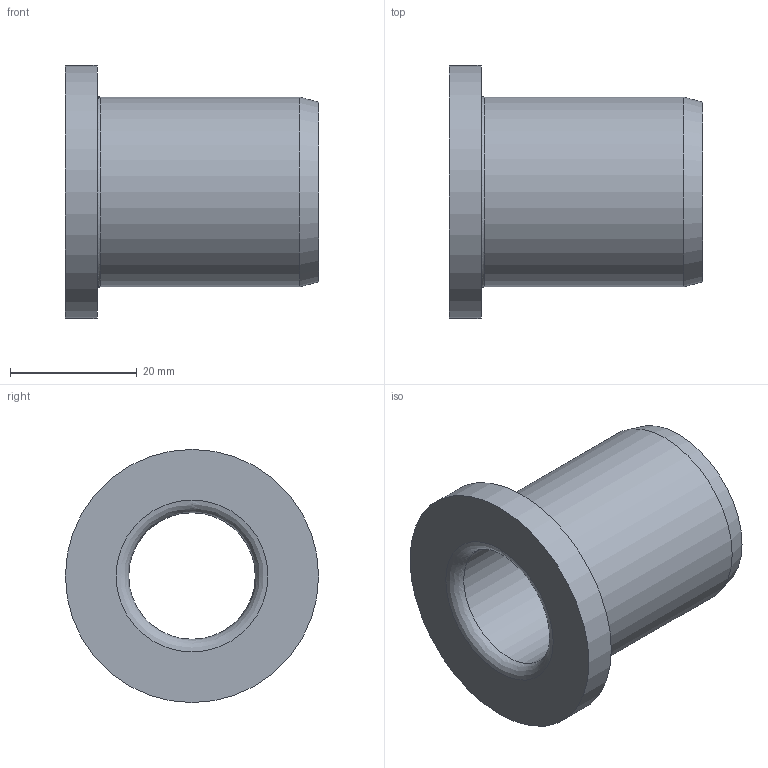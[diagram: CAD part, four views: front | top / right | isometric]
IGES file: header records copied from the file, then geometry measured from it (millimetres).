
Global section: file name: BG07.020040.ipt; native system: Autodesk Inventor 2021; preprocessor: unknown; author: SM; date: 20211217.164521; units: millimetre
Bounding box: 40 x 40 x 40 mm (x, y, z)
Volume: 18237.7 mm3; surface area: 8129.2 mm2
Topology: 1 solids, 1 shells, 10 faces, 25 edges, 18 vertices
Faces by surface type: revolution 4, plane 3, cylinder 2, cone 1
Full cylindrical faces by diameter (mm): 30 x1, 40 x1
